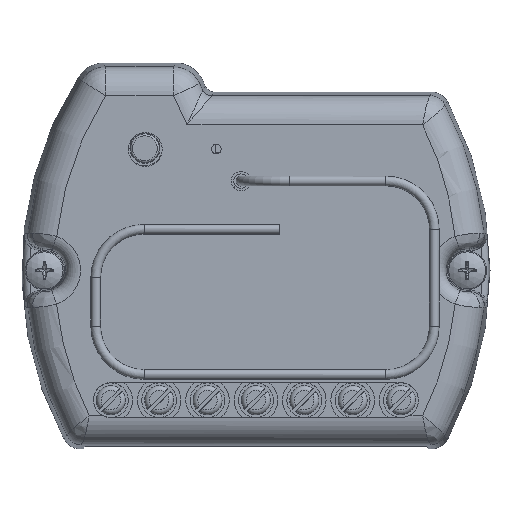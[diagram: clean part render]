
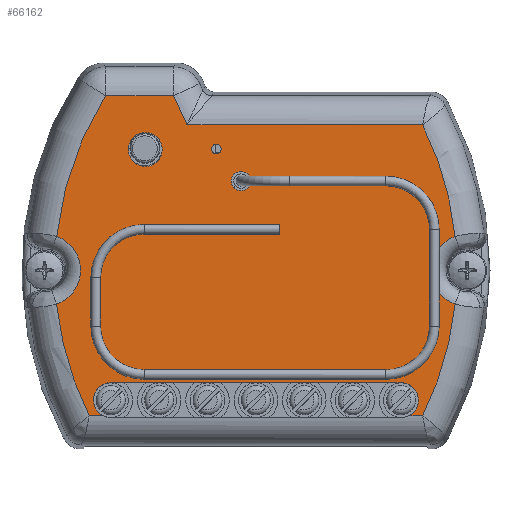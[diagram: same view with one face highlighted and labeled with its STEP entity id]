
A CAD part, top view. The second image highlights one B-rep face of the part: STEP entity #66162.
In plain terms, the highlighted planar face has unit normal (0, 0, 1).
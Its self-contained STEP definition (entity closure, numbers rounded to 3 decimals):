
#2501=FACE_BOUND('',#10301,.T.);
#2502=FACE_BOUND('',#10302,.T.);
#2503=FACE_BOUND('',#10303,.T.);
#3987=PLANE('',#71985);
#6178=FACE_OUTER_BOUND('',#10300,.T.);
#10300=EDGE_LOOP('',(#46673,#46674,#46675,#46676,#46677,#46678,#46679,#46680,
#46681,#46682,#46683,#46684,#46685,#46686));
#10301=EDGE_LOOP('',(#46687));
#10302=EDGE_LOOP('',(#46688));
#10303=EDGE_LOOP('',(#46689));
#14845=LINE('',#101749,#21057);
#14847=LINE('',#101787,#21059);
#14850=LINE('',#101799,#21062);
#14853=LINE('',#101867,#21065);
#14854=LINE('',#101871,#21066);
#14855=LINE('',#101875,#21067);
#21057=VECTOR('',#79618,10.);
#21059=VECTOR('',#79624,10.);
#21062=VECTOR('',#79639,10.);
#21065=VECTOR('',#79668,10.);
#21066=VECTOR('',#79671,10.);
#21067=VECTOR('',#79674,10.);
#26963=CIRCLE('',#71896,1.);
#26967=CIRCLE('',#71902,0.5);
#27002=CIRCLE('',#71980,33.582);
#27005=CIRCLE('',#71986,3.724);
#27006=CIRCLE('',#71987,33.582);
#27007=CIRCLE('',#71988,1.8);
#27008=CIRCLE('',#71989,1.8);
#27009=CIRCLE('',#71990,33.582);
#27010=CIRCLE('',#71991,3.724);
#27011=CIRCLE('',#71992,33.582);
#27012=CIRCLE('',#71993,1.75);
#29975=VERTEX_POINT('',#99898);
#29978=VERTEX_POINT('',#99908);
#30075=VERTEX_POINT('',#101737);
#30077=VERTEX_POINT('',#101748);
#30079=VERTEX_POINT('',#101785);
#30082=VERTEX_POINT('',#101797);
#30086=VERTEX_POINT('',#101837);
#30091=VERTEX_POINT('',#101862);
#30092=VERTEX_POINT('',#101864);
#30093=VERTEX_POINT('',#101866);
#30094=VERTEX_POINT('',#101868);
#30095=VERTEX_POINT('',#101870);
#30096=VERTEX_POINT('',#101872);
#30097=VERTEX_POINT('',#101874);
#30098=VERTEX_POINT('',#101876);
#30099=VERTEX_POINT('',#101878);
#30100=VERTEX_POINT('',#101881);
#36228=EDGE_CURVE('',#29975,#29975,#26963,.T.);
#36233=EDGE_CURVE('',#29978,#29978,#26967,.T.);
#36357=EDGE_CURVE('',#30075,#30077,#14845,.T.);
#36361=EDGE_CURVE('',#30079,#30075,#14847,.T.);
#36367=EDGE_CURVE('',#30082,#30079,#14850,.T.);
#36376=EDGE_CURVE('',#30086,#30082,#27002,.T.);
#36382=EDGE_CURVE('',#30091,#30086,#27005,.T.);
#36383=EDGE_CURVE('',#30092,#30091,#27006,.T.);
#36384=EDGE_CURVE('',#30093,#30092,#14853,.T.);
#36385=EDGE_CURVE('',#30093,#30094,#27007,.T.);
#36386=EDGE_CURVE('',#30094,#30095,#14854,.T.);
#36387=EDGE_CURVE('',#30095,#30096,#27008,.T.);
#36388=EDGE_CURVE('',#30097,#30096,#14855,.T.);
#36389=EDGE_CURVE('',#30098,#30097,#27009,.T.);
#36390=EDGE_CURVE('',#30099,#30098,#27010,.T.);
#36391=EDGE_CURVE('',#30077,#30099,#27011,.T.);
#36392=EDGE_CURVE('',#30100,#30100,#27012,.T.);
#46673=ORIENTED_EDGE('',*,*,#36367,.F.);
#46674=ORIENTED_EDGE('',*,*,#36376,.F.);
#46675=ORIENTED_EDGE('',*,*,#36382,.F.);
#46676=ORIENTED_EDGE('',*,*,#36383,.F.);
#46677=ORIENTED_EDGE('',*,*,#36384,.F.);
#46678=ORIENTED_EDGE('',*,*,#36385,.T.);
#46679=ORIENTED_EDGE('',*,*,#36386,.T.);
#46680=ORIENTED_EDGE('',*,*,#36387,.T.);
#46681=ORIENTED_EDGE('',*,*,#36388,.F.);
#46682=ORIENTED_EDGE('',*,*,#36389,.F.);
#46683=ORIENTED_EDGE('',*,*,#36390,.F.);
#46684=ORIENTED_EDGE('',*,*,#36391,.F.);
#46685=ORIENTED_EDGE('',*,*,#36357,.F.);
#46686=ORIENTED_EDGE('',*,*,#36361,.F.);
#46687=ORIENTED_EDGE('',*,*,#36228,.T.);
#46688=ORIENTED_EDGE('',*,*,#36233,.T.);
#46689=ORIENTED_EDGE('',*,*,#36392,.T.);
#66162=ADVANCED_FACE('',(#6178,#2501,#2502,#2503),#3987,.T.);
#71896=AXIS2_PLACEMENT_3D('',#99899,#79415,#79416);
#71902=AXIS2_PLACEMENT_3D('',#99909,#79428,#79429);
#71980=AXIS2_PLACEMENT_3D('',#101843,#79651,#79652);
#71985=AXIS2_PLACEMENT_3D('',#101861,#79662,#79663);
#71986=AXIS2_PLACEMENT_3D('',#101863,#79664,#79665);
#71987=AXIS2_PLACEMENT_3D('',#101865,#79666,#79667);
#71988=AXIS2_PLACEMENT_3D('',#101869,#79669,#79670);
#71989=AXIS2_PLACEMENT_3D('',#101873,#79672,#79673);
#71990=AXIS2_PLACEMENT_3D('',#101877,#79675,#79676);
#71991=AXIS2_PLACEMENT_3D('',#101879,#79677,#79678);
#71992=AXIS2_PLACEMENT_3D('',#101880,#79679,#79680);
#71993=AXIS2_PLACEMENT_3D('',#101882,#79681,#79682);
#79415=DIRECTION('center_axis',(0.,0.,-1.));
#79416=DIRECTION('ref_axis',(-1.,0.,0.));
#79428=DIRECTION('center_axis',(0.,0.,-1.));
#79429=DIRECTION('ref_axis',(-1.,0.,0.));
#79618=DIRECTION('',(1.,0.,0.));
#79624=DIRECTION('',(0.423,-0.906,0.));
#79639=DIRECTION('',(1.,0.,0.));
#79651=DIRECTION('center_axis',(0.,0.,-1.));
#79652=DIRECTION('ref_axis',(-0.962,0.272,0.));
#79662=DIRECTION('center_axis',(0.,0.,1.));
#79663=DIRECTION('ref_axis',(1.,0.,0.));
#79664=DIRECTION('center_axis',(0.,0.,1.));
#79665=DIRECTION('ref_axis',(1.,0.,0.));
#79666=DIRECTION('center_axis',(0.,0.,-1.));
#79667=DIRECTION('ref_axis',(-0.962,-0.272,0.));
#79668=DIRECTION('',(-1.,0.,0.));
#79669=DIRECTION('center_axis',(0.,0.,-1.));
#79670=DIRECTION('ref_axis',(-1.,0.,0.));
#79671=DIRECTION('',(1.,0.,0.));
#79672=DIRECTION('center_axis',(0.,0.,-1.));
#79673=DIRECTION('ref_axis',(-1.,0.,0.));
#79674=DIRECTION('',(-1.,0.,0.));
#79675=DIRECTION('center_axis',(0.,0.,-1.));
#79676=DIRECTION('ref_axis',(0.962,-0.272,0.));
#79677=DIRECTION('center_axis',(0.,0.,1.));
#79678=DIRECTION('ref_axis',(-1.,0.,0.));
#79679=DIRECTION('center_axis',(0.,0.,-1.));
#79680=DIRECTION('ref_axis',(0.962,0.272,0.));
#79681=DIRECTION('center_axis',(0.,0.,-1.));
#79682=DIRECTION('ref_axis',(1.,0.,0.));
#99898=CARTESIAN_POINT('',(-0.554,9.221,12.5));
#99899=CARTESIAN_POINT('Origin',(-1.554,9.221,12.5));
#99908=CARTESIAN_POINT('',(-3.585,12.527,12.5));
#99909=CARTESIAN_POINT('Origin',(-4.085,12.527,12.5));
#101737=CARTESIAN_POINT('',(-7.126,15.032,12.5));
#101748=CARTESIAN_POINT('',(17.23,15.032,12.5));
#101749=CARTESIAN_POINT('',(-9.047,15.032,12.5));
#101785=CARTESIAN_POINT('',(-8.525,18.032,12.5));
#101787=CARTESIAN_POINT('',(-9.516,20.156,12.5));
#101797=CARTESIAN_POINT('',(-15.53,18.032,12.5));
#101799=CARTESIAN_POINT('',(-14.761,18.032,12.5));
#101837=CARTESIAN_POINT('',(-20.599,3.508,12.5));
#101843=CARTESIAN_POINT('Origin',(12.8,0.,12.5));
#101861=CARTESIAN_POINT('Origin',(-12.174,19.1,12.5));
#101862=CARTESIAN_POINT('',(-20.599,-3.508,12.5));
#101863=CARTESIAN_POINT('Origin',(-21.85,0.,
12.5));
#101864=CARTESIAN_POINT('',(-17.23,-15.032,12.5));
#101865=CARTESIAN_POINT('Origin',(12.8,0.,12.5));
#101866=CARTESIAN_POINT('',(-15.807,-15.032,12.5));
#101867=CARTESIAN_POINT('',(9.047,-15.032,12.5));
#101868=CARTESIAN_POINT('',(-15.,-11.623,12.5));
#101869=CARTESIAN_POINT('Origin',(-15.,-13.423,12.5));
#101870=CARTESIAN_POINT('',(15.,-11.623,12.5));
#101871=CARTESIAN_POINT('',(7.5,-11.623,12.5));
#101872=CARTESIAN_POINT('',(15.807,-15.032,12.5));
#101873=CARTESIAN_POINT('Origin',(15.,-13.423,12.5));
#101874=CARTESIAN_POINT('',(17.23,-15.032,12.5));
#101875=CARTESIAN_POINT('',(9.047,-15.032,12.5));
#101876=CARTESIAN_POINT('',(20.599,-3.508,12.5));
#101877=CARTESIAN_POINT('Origin',(-12.8,0.,12.5));
#101878=CARTESIAN_POINT('',(20.599,3.508,12.5));
#101879=CARTESIAN_POINT('Origin',(21.85,0.,12.5));
#101880=CARTESIAN_POINT('Origin',(-12.8,0.,12.5));
#101881=CARTESIAN_POINT('',(-13.184,12.491,12.5));
#101882=CARTESIAN_POINT('Origin',(-11.434,12.491,12.5));
